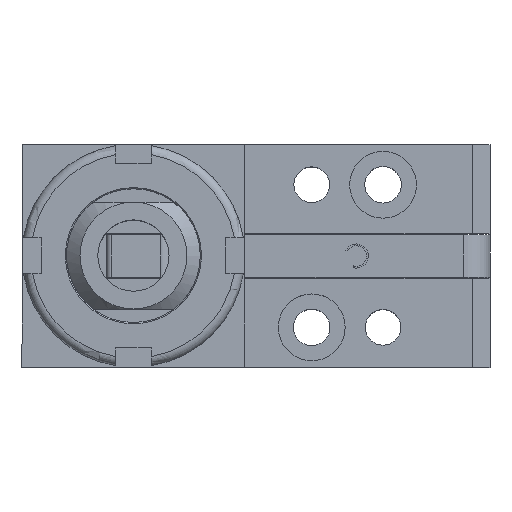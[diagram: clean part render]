
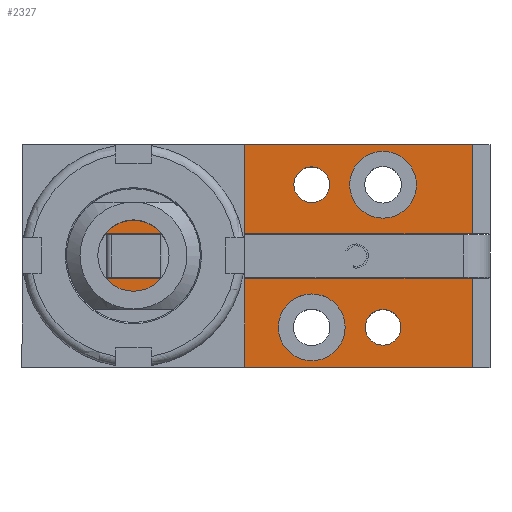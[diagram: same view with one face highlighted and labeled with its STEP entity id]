
A CAD part, top view. The second image highlights one B-rep face of the part: STEP entity #2327.
In plain terms, the highlighted planar face has unit normal (0, 0, 1).
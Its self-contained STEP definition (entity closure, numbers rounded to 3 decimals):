
#238=FACE_BOUND('',#638,.T.);
#239=FACE_BOUND('',#639,.T.);
#240=FACE_BOUND('',#640,.T.);
#241=FACE_BOUND('',#641,.T.);
#242=FACE_BOUND('',#642,.T.);
#243=FACE_BOUND('',#643,.T.);
#244=FACE_BOUND('',#644,.T.);
#245=FACE_BOUND('',#645,.T.);
#298=CIRCLE('',#2464,2.5);
#309=CIRCLE('',#2479,2.);
#310=CIRCLE('',#2481,2.);
#313=CIRCLE('',#2486,3.75);
#316=CIRCLE('',#2492,3.75);
#319=CIRCLE('',#2499,2.05);
#322=CIRCLE('',#2505,2.05);
#325=CIRCLE('',#2511,2.05);
#328=CIRCLE('',#2517,2.05);
#452=FACE_OUTER_BOUND('',#637,.T.);
#637=EDGE_LOOP('',(#1732,#1733,#1734,#1735,#1736,#1737,#1738,#1739));
#638=EDGE_LOOP('',(#1740));
#639=EDGE_LOOP('',(#1741));
#640=EDGE_LOOP('',(#1742));
#641=EDGE_LOOP('',(#1743));
#642=EDGE_LOOP('',(#1744));
#643=EDGE_LOOP('',(#1745));
#644=EDGE_LOOP('',(#1746));
#645=EDGE_LOOP('',(#1747));
#807=LINE('',#3477,#947);
#813=LINE('',#3489,#953);
#821=LINE('',#3507,#961);
#827=LINE('',#3519,#967);
#833=LINE('',#3629,#973);
#835=LINE('',#3633,#975);
#837=LINE('',#3636,#977);
#947=VECTOR('',#2748,10.);
#953=VECTOR('',#2758,41.5);
#961=VECTOR('',#2770,10.);
#967=VECTOR('',#2778,41.5);
#973=VECTOR('',#2918,50.5);
#975=VECTOR('',#2922,25.);
#977=VECTOR('',#2926,50.5);
#1087=VERTEX_POINT('',#3474);
#1088=VERTEX_POINT('',#3476);
#1092=VERTEX_POINT('',#3488);
#1097=VERTEX_POINT('',#3500);
#1100=VERTEX_POINT('',#3505);
#1105=VERTEX_POINT('',#3517);
#1120=VERTEX_POINT('',#3562);
#1121=VERTEX_POINT('',#3565);
#1124=VERTEX_POINT('',#3573);
#1127=VERTEX_POINT('',#3582);
#1130=VERTEX_POINT('',#3592);
#1133=VERTEX_POINT('',#3601);
#1136=VERTEX_POINT('',#3610);
#1139=VERTEX_POINT('',#3619);
#1142=VERTEX_POINT('',#3628);
#1143=VERTEX_POINT('',#3632);
#1313=EDGE_CURVE('',#1087,#1088,#807,.T.);
#1319=EDGE_CURVE('',#1092,#1088,#813,.T.);
#1328=EDGE_CURVE('',#1100,#1097,#821,.T.);
#1334=EDGE_CURVE('',#1100,#1105,#827,.T.);
#1341=EDGE_CURVE('',#1092,#1105,#298,.T.);
#1355=EDGE_CURVE('',#1120,#1120,#309,.T.);
#1356=EDGE_CURVE('',#1121,#1121,#310,.T.);
#1359=EDGE_CURVE('',#1124,#1124,#313,.T.);
#1362=EDGE_CURVE('',#1127,#1127,#316,.T.);
#1365=EDGE_CURVE('',#1130,#1130,#319,.T.);
#1368=EDGE_CURVE('',#1133,#1133,#322,.T.);
#1371=EDGE_CURVE('',#1136,#1136,#325,.T.);
#1374=EDGE_CURVE('',#1139,#1139,#328,.T.);
#1377=EDGE_CURVE('',#1097,#1142,#833,.T.);
#1379=EDGE_CURVE('',#1143,#1142,#835,.T.);
#1381=EDGE_CURVE('',#1143,#1087,#837,.T.);
#1732=ORIENTED_EDGE('',*,*,#1313,.F.);
#1733=ORIENTED_EDGE('',*,*,#1381,.F.);
#1734=ORIENTED_EDGE('',*,*,#1379,.T.);
#1735=ORIENTED_EDGE('',*,*,#1377,.F.);
#1736=ORIENTED_EDGE('',*,*,#1328,.F.);
#1737=ORIENTED_EDGE('',*,*,#1334,.T.);
#1738=ORIENTED_EDGE('',*,*,#1341,.F.);
#1739=ORIENTED_EDGE('',*,*,#1319,.T.);
#1740=ORIENTED_EDGE('',*,*,#1355,.T.);
#1741=ORIENTED_EDGE('',*,*,#1356,.T.);
#1742=ORIENTED_EDGE('',*,*,#1359,.T.);
#1743=ORIENTED_EDGE('',*,*,#1362,.T.);
#1744=ORIENTED_EDGE('',*,*,#1365,.T.);
#1745=ORIENTED_EDGE('',*,*,#1368,.T.);
#1746=ORIENTED_EDGE('',*,*,#1371,.T.);
#1747=ORIENTED_EDGE('',*,*,#1374,.T.);
#2235=PLANE('',#2524);
#2327=ADVANCED_FACE('',(#452,#238,#239,#240,#241,#242,#243,#244,#245),#2235,
 .T.);
#2464=AXIS2_PLACEMENT_3D('',#3534,#2797,#2798);
#2479=AXIS2_PLACEMENT_3D('',#3563,#2830,#2831);
#2481=AXIS2_PLACEMENT_3D('',#3566,#2834,#2835);
#2486=AXIS2_PLACEMENT_3D('',#3574,#2844,#2845);
#2492=AXIS2_PLACEMENT_3D('',#3583,#2856,#2857);
#2499=AXIS2_PLACEMENT_3D('',#3593,#2870,#2871);
#2505=AXIS2_PLACEMENT_3D('',#3602,#2882,#2883);
#2511=AXIS2_PLACEMENT_3D('',#3611,#2894,#2895);
#2517=AXIS2_PLACEMENT_3D('',#3620,#2906,#2907);
#2524=AXIS2_PLACEMENT_3D('',#3635,#2924,#2925);
#2748=DIRECTION('',(0.,-1.,0.));
#2758=DIRECTION('',(1.,0.,0.));
#2770=DIRECTION('',(0.,-1.,0.));
#2778=DIRECTION('',(-1.,0.,0.));
#2797=DIRECTION('center_axis',(0.,0.,1.));
#2798=DIRECTION('ref_axis',(-0.707,0.707,0.));
#2830=DIRECTION('center_axis',(0.,0.,-1.));
#2831=DIRECTION('ref_axis',(1.,0.,0.));
#2834=DIRECTION('center_axis',(0.,0.,-1.));
#2835=DIRECTION('ref_axis',(1.,0.,0.));
#2844=DIRECTION('center_axis',(0.,0.,-1.));
#2845=DIRECTION('ref_axis',(1.,0.,0.));
#2856=DIRECTION('center_axis',(0.,0.,-1.));
#2857=DIRECTION('ref_axis',(1.,0.,0.));
#2870=DIRECTION('center_axis',(0.,0.,-1.));
#2871=DIRECTION('ref_axis',(-1.,0.,0.));
#2882=DIRECTION('center_axis',(0.,0.,-1.));
#2883=DIRECTION('ref_axis',(-1.,0.,0.));
#2894=DIRECTION('center_axis',(0.,0.,-1.));
#2895=DIRECTION('ref_axis',(-1.,0.,0.));
#2906=DIRECTION('center_axis',(0.,0.,-1.));
#2907=DIRECTION('ref_axis',(-1.,0.,0.));
#2918=DIRECTION('',(-1.,0.,0.));
#2922=DIRECTION('',(0.,-1.,0.));
#2924=DIRECTION('center_axis',(0.,0.,1.));
#2925=DIRECTION('ref_axis',(1.,0.,0.));
#2926=DIRECTION('',(1.,0.,0.));
#3474=CARTESIAN_POINT('',(3.,12.5,3.));
#3476=CARTESIAN_POINT('',(3.,2.5,3.));
#3477=CARTESIAN_POINT('',(3.,0.,3.));
#3488=CARTESIAN_POINT('',(-38.5,2.5,3.));
#3489=CARTESIAN_POINT('',(-32.75,2.5,3.));
#3500=CARTESIAN_POINT('',(3.,-12.5,3.));
#3505=CARTESIAN_POINT('',(3.,-2.5,3.));
#3507=CARTESIAN_POINT('',(3.,0.,3.));
#3517=CARTESIAN_POINT('',(-38.5,-2.5,3.));
#3519=CARTESIAN_POINT('',(-32.75,-2.5,3.));
#3534=CARTESIAN_POINT('Origin',(-38.5,0.,3.));
#3562=CARTESIAN_POINT('',(-13.,8.,3.));
#3563=CARTESIAN_POINT('Origin',(-15.,8.,3.));
#3565=CARTESIAN_POINT('',(-5.,-8.,3.));
#3566=CARTESIAN_POINT('Origin',(-7.,-8.,3.));
#3573=CARTESIAN_POINT('',(-3.25,8.,3.));
#3574=CARTESIAN_POINT('Origin',(-7.,8.,3.));
#3582=CARTESIAN_POINT('',(-11.25,-8.,3.));
#3583=CARTESIAN_POINT('Origin',(-15.,-8.,3.));
#3592=CARTESIAN_POINT('',(-40.95,-8.,3.));
#3593=CARTESIAN_POINT('Origin',(-43.,-8.,3.));
#3601=CARTESIAN_POINT('',(-24.95,8.,3.));
#3602=CARTESIAN_POINT('Origin',(-27.,8.,3.));
#3610=CARTESIAN_POINT('',(-40.95,8.,3.));
#3611=CARTESIAN_POINT('Origin',(-43.,8.,3.));
#3619=CARTESIAN_POINT('',(-24.95,-8.,3.));
#3620=CARTESIAN_POINT('Origin',(-27.,-8.,3.));
#3628=CARTESIAN_POINT('',(-47.5,-12.5,3.));
#3629=CARTESIAN_POINT('',(5.,-12.5,3.));
#3632=CARTESIAN_POINT('',(-47.5,12.5,3.));
#3633=CARTESIAN_POINT('',(-47.5,0.,3.));
#3635=CARTESIAN_POINT('Origin',(-47.5,0.,3.));
#3636=CARTESIAN_POINT('',(5.,12.5,3.));
